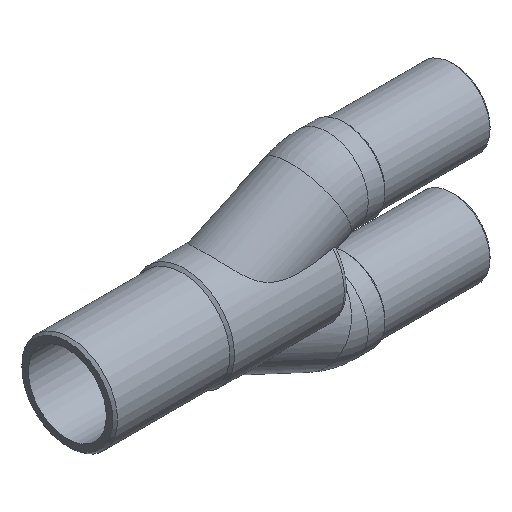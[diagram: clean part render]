
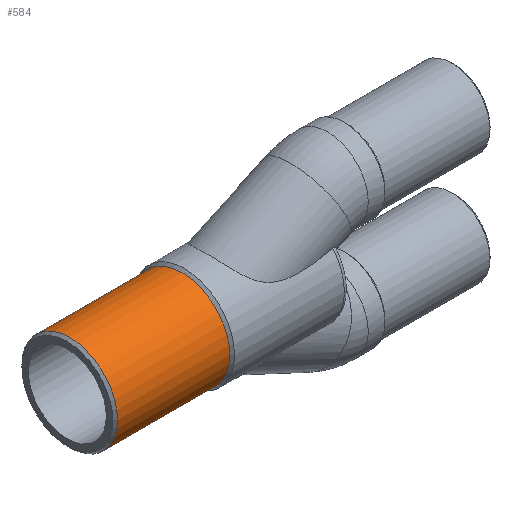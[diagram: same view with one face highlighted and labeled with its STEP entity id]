
A CAD part, isometric view. The second image highlights one B-rep face of the part: STEP entity #584.
In plain terms, the highlighted cylindrical face has radius 20 mm (diameter 40 mm), a full revolution.
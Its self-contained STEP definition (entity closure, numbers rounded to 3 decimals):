
#184=ORIENTED_EDGE('',*,*,#310,.T.);
#185=ORIENTED_EDGE('',*,*,#309,.T.);
#309=EDGE_CURVE('',#374,#374,#415,.T.);
#310=EDGE_CURVE('',#375,#375,#416,.T.);
#374=VERTEX_POINT('',#1164);
#375=VERTEX_POINT('',#1167);
#415=CIRCLE('',#678,20.);
#416=CIRCLE('',#680,20.);
#464=EDGE_LOOP('',(#184));
#465=EDGE_LOOP('',(#185));
#526=FACE_BOUND('',#464,.T.);
#527=FACE_BOUND('',#465,.T.);
#557=CYLINDRICAL_SURFACE('',#679,20.);
#584=ADVANCED_FACE('',(#526,#527),#557,.T.);
#678=AXIS2_PLACEMENT_3D('',#1163,#839,#840);
#679=AXIS2_PLACEMENT_3D('',#1165,#841,#842);
#680=AXIS2_PLACEMENT_3D('',#1166,#843,#844);
#839=DIRECTION('',(-1.,0.,0.));
#840=DIRECTION('',(0.,0.,1.));
#841=DIRECTION('',(-1.,0.,0.));
#842=DIRECTION('',(0.,0.,1.));
#843=DIRECTION('',(1.,0.,0.));
#844=DIRECTION('',(0.,0.,-1.));
#1163=CARTESIAN_POINT('',(-0.5,0.,0.));
#1164=CARTESIAN_POINT('',(-0.5,0.,20.));
#1165=CARTESIAN_POINT('',(-48.5,0.,0.));
#1166=CARTESIAN_POINT('',(-47.5,0.,0.));
#1167=CARTESIAN_POINT('',(-47.5,0.,-20.));
